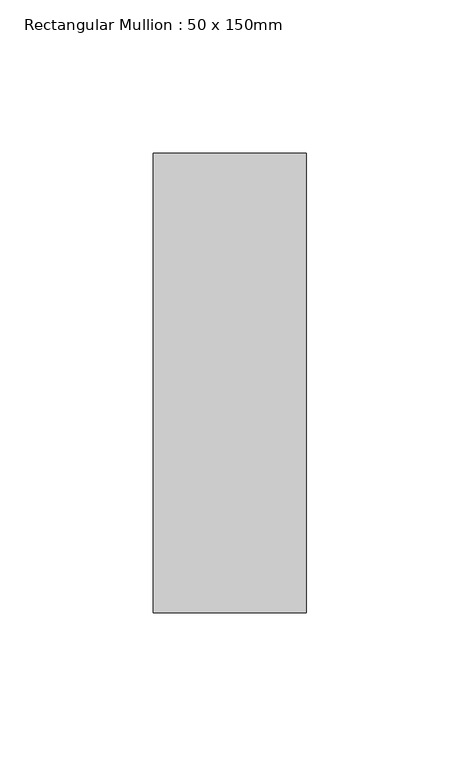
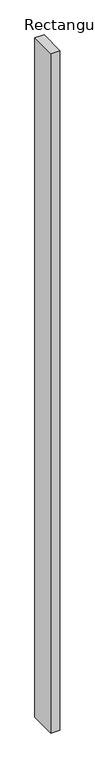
"""IFC4 building model written with IfcOpenShell, lengths in millimetres: member geometry, Rectangular Mullion : 50 x 150mm."""

from ifc_helpers import new_model, si_unit, frame, origin, place, context, project, spatial, polyline, outline, extrude, source, transform, mapped, element, save


def rectangular_mullion_50_x_150mm_182bfbd5(model_context):
    return source(origin(), model_context, "Body", "SweptSolid", [
        extrude(outline(polyline([(0.0, 75.0), (0.0, -75.0), (-50.0, -75.0), (-50.0, 75.0), (0.0, 75.0)])), frame((0.0, 0.0, -3950.0), z_axis=(0.0, 0.0, 1.0), x_axis=(1.0, 0.0, 0.0)), (0.0, 0.0, 1.0), 3950.0),
    ])


if __name__ == "__main__":
    model = new_model("IFC4")
    model_context = context("Model", 3, world=origin())
    ifc_project = project(units=[si_unit("LENGTHUNIT", "METRE", prefix="MILLI")], contexts=[model_context])
    site = spatial("IfcSite", under=ifc_project)
    building = spatial("IfcBuilding", under=site)
    placement = place(None, origin())
    rectangular_mullion_50_x_150mm_shape = rectangular_mullion_50_x_150mm_182bfbd5(model_context)
    element("IfcMember", 1, ObjectType="Rectangular Mullion : 50 x 150mm", at=placement, inside=building, context=model_context, shape_type="MappedRepresentation", body=[
        mapped(rectangular_mullion_50_x_150mm_shape, transform((0.0, 0.0, 0.0), x_axis=(1.0, 0.0, 0.0), y_axis=(0.0, 1.0, 0.0), z_axis=(0.0, 0.0, 1.0))),
    ])
    save(model, "model.ifc")
